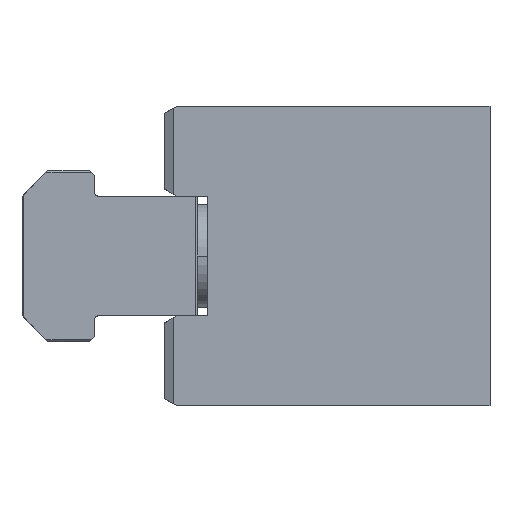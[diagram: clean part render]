
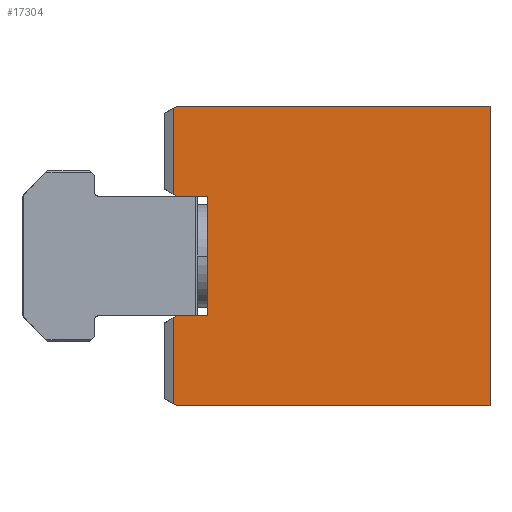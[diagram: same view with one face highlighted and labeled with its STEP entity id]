
A CAD part, front view. The second image highlights one B-rep face of the part: STEP entity #17304.
In plain terms, the highlighted planar face has unit normal (0, -1, 0) as drawn and (-1, 0, 0) by its records, which use the part's own axes.
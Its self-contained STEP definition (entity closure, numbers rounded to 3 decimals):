
#1643 = DIRECTION ( 'NONE',  ( 0., 0., 1. ) ) ;
#4956 = CARTESIAN_POINT ( 'NONE',  ( -95., 0., 7. ) ) ;
#5577 = LINE ( 'NONE', #84012, #58429 ) ;
#8205 = ORIENTED_EDGE ( 'NONE', *, *, #37371, .T. ) ;
#9133 = VECTOR ( 'NONE', #24686, 1000. ) ;
#9994 = VECTOR ( 'NONE', #18760, 1000. ) ;
#10339 = CARTESIAN_POINT ( 'NONE',  ( -95., 1.4, 7. ) ) ;
#11290 = EDGE_CURVE ( 'NONE', #48396, #51569, #92311, .T. ) ;
#12749 = VECTOR ( 'NONE', #85701, 1000. ) ;
#13698 = LINE ( 'NONE', #67772, #68795 ) ;
#14269 = CARTESIAN_POINT ( 'NONE',  ( -95., 1.4, 7. ) ) ;
#14989 = VERTEX_POINT ( 'NONE', #46179 ) ;
#16278 = CARTESIAN_POINT ( 'NONE',  ( -95., 0., 16.692 ) ) ;
#17304 = ADVANCED_FACE ( 'NONE', ( #47493 ), #33553, .T. ) ;
#17548 = DIRECTION ( 'NONE',  ( 0., 0.866, -0.5 ) ) ;
#17680 = CARTESIAN_POINT ( 'NONE',  ( -95., 1.4, 17.5 ) ) ;
#17704 = CARTESIAN_POINT ( 'NONE',  ( -95., 5., -7. ) ) ;
#18760 = DIRECTION ( 'NONE',  ( 0., 0., 1. ) ) ;
#19430 = DIRECTION ( 'NONE',  ( -1., 0., 0. ) ) ;
#19810 = ORIENTED_EDGE ( 'NONE', *, *, #84052, .T. ) ;
#22216 = VERTEX_POINT ( 'NONE', #14269 ) ;
#23429 = DIRECTION ( 'NONE',  ( 0., -0.866, -0.5 ) ) ;
#24397 = CARTESIAN_POINT ( 'NONE',  ( -95., 1.4, -7. ) ) ;
#24686 = DIRECTION ( 'NONE',  ( 0., 0., -1. ) ) ;
#25128 = CARTESIAN_POINT ( 'NONE',  ( -95., 5., 7. ) ) ;
#25431 = CARTESIAN_POINT ( 'NONE',  ( -95., 0.949, -7.26 ) ) ;
#25560 = EDGE_CURVE ( 'NONE', #48396, #22216, #40387, .T. ) ;
#25867 = LINE ( 'NONE', #4956, #61953 ) ;
#26486 = DIRECTION ( 'NONE',  ( 0., 0.866, -0.5 ) ) ;
#28017 = EDGE_CURVE ( 'NONE', #62253, #81808, #68090, .T. ) ;
#28160 = LINE ( 'NONE', #46153, #9133 ) ;
#28266 = ORIENTED_EDGE ( 'NONE', *, *, #51027, .T. ) ;
#28903 = DIRECTION ( 'NONE',  ( 0., 0., 1. ) ) ;
#29813 = VECTOR ( 'NONE', #33964, 1000. ) ;
#30317 = EDGE_CURVE ( 'NONE', #86490, #51569, #74848, .T. ) ;
#31192 = CARTESIAN_POINT ( 'NONE',  ( -95., 0.949, 17.24 ) ) ;
#31876 = DIRECTION ( 'NONE',  ( 0., -1., 0. ) ) ;
#33553 = PLANE ( 'NONE',  #49094 ) ;
#33964 = DIRECTION ( 'NONE',  ( 0., 1., 0. ) ) ;
#36599 = LINE ( 'NONE', #24397, #72626 ) ;
#36645 = VERTEX_POINT ( 'NONE', #25431 ) ;
#37227 = VECTOR ( 'NONE', #1643, 1000. ) ;
#37371 = EDGE_CURVE ( 'NONE', #81808, #42081, #64720, .T. ) ;
#40387 = LINE ( 'NONE', #10339, #76385 ) ;
#42081 = VERTEX_POINT ( 'NONE', #25128 ) ;
#42796 = EDGE_CURVE ( 'NONE', #55604, #36645, #65130, .T. ) ;
#42924 = ORIENTED_EDGE ( 'NONE', *, *, #25560, .F. ) ;
#44112 = ORIENTED_EDGE ( 'NONE', *, *, #30317, .F. ) ;
#44171 = CARTESIAN_POINT ( 'NONE',  ( -95., 1.4, -7. ) ) ;
#44211 = EDGE_CURVE ( 'NONE', #62253, #36645, #36599, .T. ) ;
#44295 = ORIENTED_EDGE ( 'NONE', *, *, #11290, .T. ) ;
#44692 = CARTESIAN_POINT ( 'NONE',  ( -95., 0.949, 0. ) ) ;
#46153 = CARTESIAN_POINT ( 'NONE',  ( -95., 38., 0. ) ) ;
#46179 = CARTESIAN_POINT ( 'NONE',  ( -95., 38., 17.5 ) ) ;
#47493 = FACE_OUTER_BOUND ( 'NONE', #77997, .T. ) ;
#48396 = VERTEX_POINT ( 'NONE', #87692 ) ;
#48789 = CARTESIAN_POINT ( 'NONE',  ( -95., 0., -7. ) ) ;
#49094 = AXIS2_PLACEMENT_3D ( 'NONE', #62553, #19430, #69728 ) ;
#49107 = CARTESIAN_POINT ( 'NONE',  ( -95., 38., -17.5 ) ) ;
#51027 = EDGE_CURVE ( 'NONE', #14989, #79433, #28160, .T. ) ;
#51569 = VERTEX_POINT ( 'NONE', #31192 ) ;
#52275 = ORIENTED_EDGE ( 'NONE', *, *, #44211, .F. ) ;
#52573 = ORIENTED_EDGE ( 'NONE', *, *, #59992, .F. ) ;
#55604 = VERTEX_POINT ( 'NONE', #74892 ) ;
#55831 = ORIENTED_EDGE ( 'NONE', *, *, #80837, .F. ) ;
#58429 = VECTOR ( 'NONE', #26486, 1000. ) ;
#59992 = EDGE_CURVE ( 'NONE', #55604, #91814, #5577, .T. ) ;
#60082 = LINE ( 'NONE', #71637, #12749 ) ;
#61953 = VECTOR ( 'NONE', #69983, 1000. ) ;
#62253 = VERTEX_POINT ( 'NONE', #44171 ) ;
#62553 = CARTESIAN_POINT ( 'NONE',  ( -95., 0., 0. ) ) ;
#64513 = CARTESIAN_POINT ( 'NONE',  ( -95., 1.4, -17.5 ) ) ;
#64720 = LINE ( 'NONE', #64854, #81508 ) ;
#64854 = CARTESIAN_POINT ( 'NONE',  ( -95., 5., 0. ) ) ;
#65130 = LINE ( 'NONE', #76568, #9994 ) ;
#65946 = ORIENTED_EDGE ( 'NONE', *, *, #42796, .T. ) ;
#66649 = EDGE_CURVE ( 'NONE', #79433, #91814, #13698, .T. ) ;
#67772 = CARTESIAN_POINT ( 'NONE',  ( -95., 0., -17.5 ) ) ;
#67824 = DIRECTION ( 'NONE',  ( 0., -0.866, -0.5 ) ) ;
#68090 = LINE ( 'NONE', #48789, #29813 ) ;
#68795 = VECTOR ( 'NONE', #31876, 1000. ) ;
#69728 = DIRECTION ( 'NONE',  ( 0., 0., 1. ) ) ;
#69983 = DIRECTION ( 'NONE',  ( 0., -1., 0. ) ) ;
#71637 = CARTESIAN_POINT ( 'NONE',  ( -95., 1.4, 17.5 ) ) ;
#72595 = VECTOR ( 'NONE', #23429, 1000. ) ;
#72626 = VECTOR ( 'NONE', #67824, 1000. ) ;
#74848 = LINE ( 'NONE', #16278, #72595 ) ;
#74892 = CARTESIAN_POINT ( 'NONE',  ( -95., 0.949, -17.24 ) ) ;
#74931 = ORIENTED_EDGE ( 'NONE', *, *, #28017, .T. ) ;
#76385 = VECTOR ( 'NONE', #17548, 1000. ) ;
#76568 = CARTESIAN_POINT ( 'NONE',  ( -95., 0.949, 0. ) ) ;
#77997 = EDGE_LOOP ( 'NONE', ( #19810, #42924, #44295, #44112, #55831, #28266, #86974, #52573, #65946, #52275, #74931, #8205 ) ) ;
#79433 = VERTEX_POINT ( 'NONE', #49107 ) ;
#80837 = EDGE_CURVE ( 'NONE', #14989, #86490, #60082, .T. ) ;
#81508 = VECTOR ( 'NONE', #28903, 1000. ) ;
#81808 = VERTEX_POINT ( 'NONE', #17704 ) ;
#84012 = CARTESIAN_POINT ( 'NONE',  ( -95., 0., -16.692 ) ) ;
#84052 = EDGE_CURVE ( 'NONE', #42081, #22216, #25867, .T. ) ;
#85701 = DIRECTION ( 'NONE',  ( 0., -1., 0. ) ) ;
#86490 = VERTEX_POINT ( 'NONE', #17680 ) ;
#86974 = ORIENTED_EDGE ( 'NONE', *, *, #66649, .T. ) ;
#87692 = CARTESIAN_POINT ( 'NONE',  ( -95., 0.949, 7.26 ) ) ;
#91814 = VERTEX_POINT ( 'NONE', #64513 ) ;
#92311 = LINE ( 'NONE', #44692, #37227 ) ;
